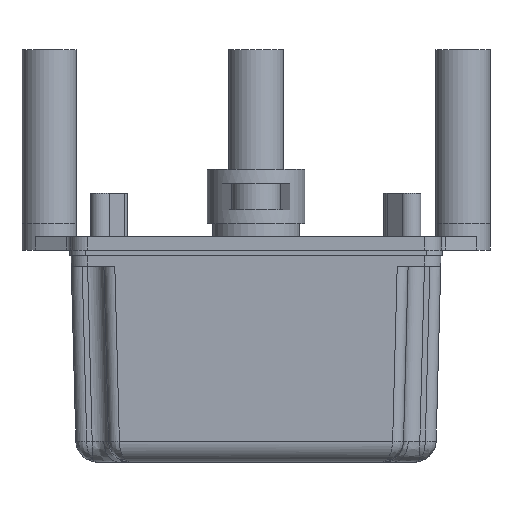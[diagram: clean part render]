
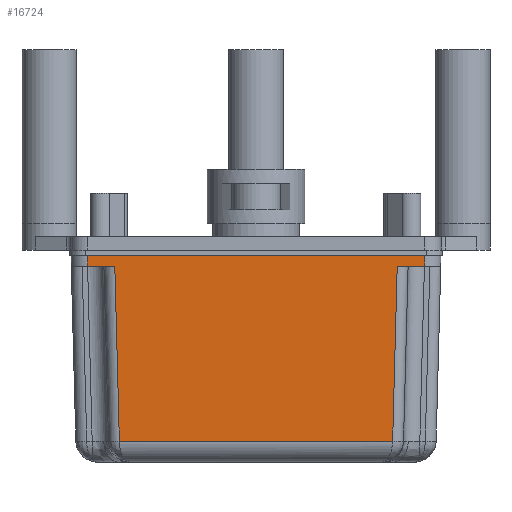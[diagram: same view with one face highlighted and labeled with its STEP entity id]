
A CAD part, front view. The second image highlights one B-rep face of the part: STEP entity #16724.
In plain terms, the highlighted planar face has unit normal (0, -1, -0.026).
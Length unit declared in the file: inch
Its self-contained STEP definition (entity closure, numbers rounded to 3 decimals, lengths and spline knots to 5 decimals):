
#126 = VERTEX_POINT ( 'NONE', #14496 ) ;
#391 = ORIENTED_EDGE ( 'NONE', *, *, #6806, .T. ) ;
#543 = ORIENTED_EDGE ( 'NONE', *, *, #12500, .F. ) ;
#1060 = DIRECTION ( 'NONE',  ( -1., 0., 0. ) ) ;
#1739 = DIRECTION ( 'NONE',  ( 0.026, 0.026, -0.999 ) ) ;
#2288 = CARTESIAN_POINT ( 'NONE',  ( 1.62273, -1.93519, -0.08826 ) ) ;
#3478 = VECTOR ( 'NONE', #9805, 39.37008 ) ;
#3772 = CARTESIAN_POINT ( 'NONE',  ( -1.75, -1.9375, 0. ) ) ;
#4209 = VECTOR ( 'NONE', #5362, 39.37008 ) ;
#4308 = CARTESIAN_POINT ( 'NONE',  ( 1.56285, -1.88168, -2.13154 ) ) ;
#4325 = CARTESIAN_POINT ( 'NONE',  ( 1.93756, -1.9375, 0. ) ) ;
#4374 = ORIENTED_EDGE ( 'NONE', *, *, #12871, .T. ) ;
#4624 = LINE ( 'NONE', #10111, #13508 ) ;
#4711 = EDGE_CURVE ( 'NONE', #126, #6451, #4624, .T. ) ;
#4840 = CARTESIAN_POINT ( 'NONE',  ( -1.93756, -1.9375, 0. ) ) ;
#5115 = DIRECTION ( 'NONE',  ( 0., -1., -0.026 ) ) ;
#5362 = DIRECTION ( 'NONE',  ( 0.026, 0.026, -0.999 ) ) ;
#5800 = LINE ( 'NONE', #11294, #15206 ) ;
#5917 = ORIENTED_EDGE ( 'NONE', *, *, #11699, .F. ) ;
#5924 = VECTOR ( 'NONE', #1060, 39.37008 ) ;
#6451 = VERTEX_POINT ( 'NONE', #15138 ) ;
#6806 = EDGE_CURVE ( 'NONE', #126, #8722, #8550, .T. ) ;
#7505 = VERTEX_POINT ( 'NONE', #4325 ) ;
#7507 = CARTESIAN_POINT ( 'NONE',  ( 1.93429, -1.93423, -0.125 ) ) ;
#7766 = DIRECTION ( 'NONE',  ( 0.026, -0.026, 0.999 ) ) ;
#7874 = LINE ( 'NONE', #13369, #5924 ) ;
#7891 = VECTOR ( 'NONE', #7766, 39.37008 ) ;
#8550 = LINE ( 'NONE', #14053, #14763 ) ;
#8722 = VERTEX_POINT ( 'NONE', #8749 ) ;
#8749 = CARTESIAN_POINT ( 'NONE',  ( -1.56923, -1.88168, -2.13154 ) ) ;
#9261 = DIRECTION ( 'NONE',  ( 1., 0., 0. ) ) ;
#9715 = ORIENTED_EDGE ( 'NONE', *, *, #4711, .F. ) ;
#9805 = DIRECTION ( 'NONE',  ( 1., 0., 0. ) ) ;
#9963 = VECTOR ( 'NONE', #9261, 39.37008 ) ;
#10111 = CARTESIAN_POINT ( 'NONE',  ( -1.75, -1.93423, -0.125 ) ) ;
#10420 = FACE_OUTER_BOUND ( 'NONE', #10929, .T. ) ;
#10601 = DIRECTION ( 'NONE',  ( 0., 0.026, -1. ) ) ;
#10710 = CARTESIAN_POINT ( 'NONE',  ( 1.62177, -1.93423, -0.125 ) ) ;
#10929 = EDGE_LOOP ( 'NONE', ( #5917, #4374, #543, #13044, #9715, #391, #16315, #15572 ) ) ;
#11294 = CARTESIAN_POINT ( 'NONE',  ( 1.93504, -1.93497, -0.09643 ) ) ;
#11699 = EDGE_CURVE ( 'NONE', #12970, #17457, #7874, .T. ) ;
#11754 = VERTEX_POINT ( 'NONE', #14808 ) ;
#12187 = LINE ( 'NONE', #17685, #4209 ) ;
#12426 = VERTEX_POINT ( 'NONE', #4840 ) ;
#12500 = EDGE_CURVE ( 'NONE', #12426, #7505, #16087, .T. ) ;
#12871 = EDGE_CURVE ( 'NONE', #12970, #7505, #5800, .T. ) ;
#12970 = VERTEX_POINT ( 'NONE', #7507 ) ;
#13044 = ORIENTED_EDGE ( 'NONE', *, *, #17804, .T. ) ;
#13367 = EDGE_CURVE ( 'NONE', #8722, #11754, #16627, .T. ) ;
#13369 = CARTESIAN_POINT ( 'NONE',  ( -1.75, -1.93423, -0.125 ) ) ;
#13508 = VECTOR ( 'NONE', #15598, 39.37008 ) ;
#14053 = CARTESIAN_POINT ( 'NONE',  ( -1.62513, -1.93759, 0.00327 ) ) ;
#14496 = CARTESIAN_POINT ( 'NONE',  ( -1.62177, -1.93423, -0.125 ) ) ;
#14613 = LINE ( 'NONE', #2288, #7891 ) ;
#14763 = VECTOR ( 'NONE', #1739, 39.37008 ) ;
#14808 = CARTESIAN_POINT ( 'NONE',  ( 1.56923, -1.88168, -2.13154 ) ) ;
#15138 = CARTESIAN_POINT ( 'NONE',  ( -1.93429, -1.93423, -0.125 ) ) ;
#15206 = VECTOR ( 'NONE', #16775, 39.37008 ) ;
#15572 = ORIENTED_EDGE ( 'NONE', *, *, #16340, .T. ) ;
#15598 = DIRECTION ( 'NONE',  ( -1., 0., 0. ) ) ;
#15913 = PLANE ( 'NONE',  #17677 ) ;
#16087 = LINE ( 'NONE', #3772, #9963 ) ;
#16315 = ORIENTED_EDGE ( 'NONE', *, *, #13367, .T. ) ;
#16340 = EDGE_CURVE ( 'NONE', #11754, #17457, #14613, .T. ) ;
#16627 = LINE ( 'NONE', #4308, #3478 ) ;
#16724 = ADVANCED_FACE ( 'NONE', ( #10420 ), #15913, .T. ) ;
#16775 = DIRECTION ( 'NONE',  ( 0.026, -0.026, 0.999 ) ) ;
#17436 = CARTESIAN_POINT ( 'NONE',  ( -1.75, -1.9375, 0. ) ) ;
#17457 = VERTEX_POINT ( 'NONE', #10710 ) ;
#17677 = AXIS2_PLACEMENT_3D ( 'NONE', #17436, #5115, #10601 ) ;
#17685 = CARTESIAN_POINT ( 'NONE',  ( -1.93744, -1.93737, -0.0049 ) ) ;
#17804 = EDGE_CURVE ( 'NONE', #12426, #6451, #12187, .T. ) ;
